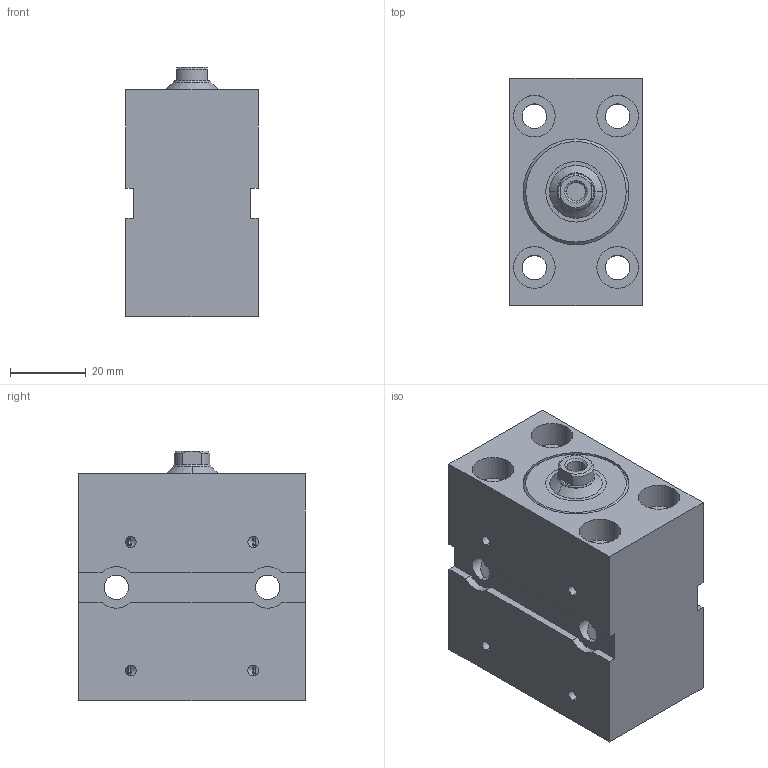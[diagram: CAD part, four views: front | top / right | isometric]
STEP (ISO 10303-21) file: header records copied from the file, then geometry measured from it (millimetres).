
FILE_DESCRIPTION (( 'STEP AP203' ), '1' );
FILE_NAME ('BZ_500.16_10.70.201.020.KBC30__DH_0_.STEP', '2022-05-10T12:15:03', ( '' ), ( '' ), 'SwSTEP 2.0', 'SolidWorks 2020', '' );
FILE_SCHEMA (( 'CONFIG_CONTROL_DESIGN' ));
Length unit declared in the file: millimetre
Products named in the file (6): _Dichtungssatz f. BZ_RZ_FZ.16_10.xx.201.20 Artikelnr._ 013286(0)^BZ_500.16_10.70.201.020.KBC30__DH_0_(2)_BZ_500.16_10.70.201.020.KBC30__DH_0_; _Verschraubung komplett mit Dichtung f. BZ_RZ_FZ.16_10.201, Art.-Nr._ 042485(201)^BZ_500.16_10.70.201.020.KBC30__DH_0_(2)_BZ_500.16_10.70.201.020.KBC30__DH_0_; BZ_500.16_10.70.201.020.KBC30__DH_0_; _Kolbenstange komplett f. BZ_RZ_FZ.16_10.xx.201.20(0_11 1 6 1 0 0 6 12 0 0 0)0^BZ_500.16_10.70.201.020.KBC30__DH_0_(2)_BZ_500.16_10.70.201.020.KBC30__DH_0_; BZ_500.16_10.70.201.020.KBC30__DH_0_(2)^BZ_500.16_10.70.201.020.KBC30__DH_0_; _Gehaeuse f. BZ500.16_10.Fehler in IDBF.201.20Fehler in IDNT00(1330frei270000))6^BZ_500.16_10.70.201.020.KBC30__DH_0_(2)_BZ_500.16_10.70.201.020.KBC30__DH_0_
Assembly tree (5 placements, depth 3):
  BZ_500.16_10.70.201.020.KBC30__DH_0_
    BZ_500.16_10.70.201.020.KBC30__DH_0_(2)^BZ_500.16_10.70.201.020.KBC30__DH_0_
      _Gehaeuse f. BZ500.16_10.Fehler in IDBF.201.20Fehler in IDNT00(1330frei270000))6^BZ_500.16_10.70.201.020.KBC30__DH_0_(2)_BZ_500.16_10.70.201.020.KBC30__DH_0_
      _Verschraubung komplett mit Dichtung f. BZ_RZ_FZ.16_10.201, Art.-Nr._ 042485(201)^BZ_500.16_10.70.201.020.KBC30__DH_0_(2)_BZ_500.16_10.70.201.020.KBC30__DH_0_
      _Dichtungssatz f. BZ_RZ_FZ.16_10.xx.201.20 Artikelnr._ 013286(0)^BZ_500.16_10.70.201.020.KBC30__DH_0_(2)_BZ_500.16_10.70.201.020.KBC30__DH_0_
      _Kolbenstange komplett f. BZ_RZ_FZ.16_10.xx.201.20(0_11 1 6 1 0 0 6 12 0 0 0)0^BZ_500.16_10.70.201.020.KBC30__DH_0_(2)_BZ_500.16_10.70.201.020.KBC30__DH_0_
Bounding box: 35 x 60 x 66 mm (x, y, z)
Volume: 106394 mm3; surface area: 33161 mm2
Topology: 4 solids, 4 shells, 178 faces, 466 edges, 284 vertices
Faces by surface type: cylinder 101, plane 47, cone 30
Entity records: 6587 total; most frequent: CARTESIAN_POINT 1570, DIRECTION 958, ORIENTED_EDGE 900, EDGE_CURVE 450, AXIS2_PLACEMENT_3D 379, VERTEX_POINT 284, EDGE_LOOP 226, VECTOR 200
